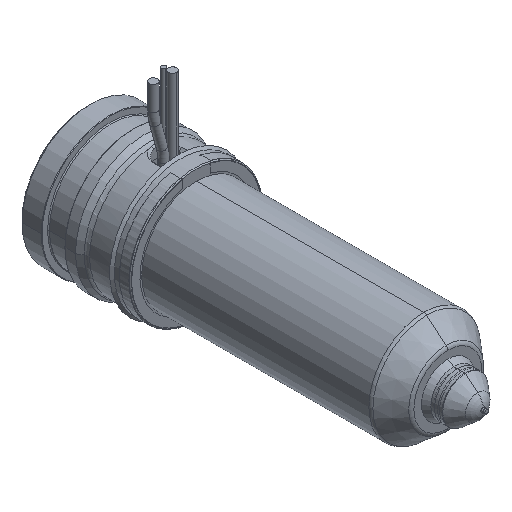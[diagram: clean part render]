
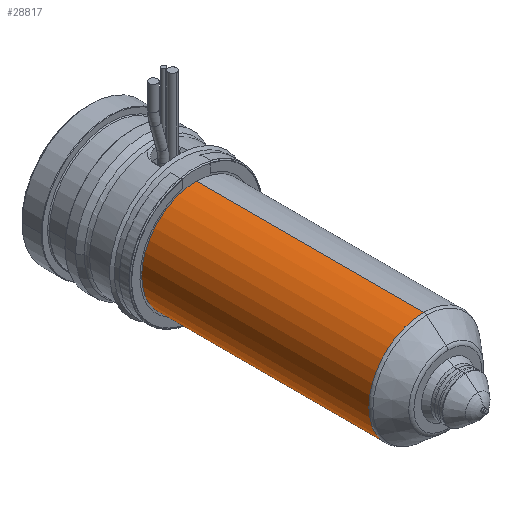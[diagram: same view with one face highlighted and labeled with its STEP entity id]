
A CAD part, isometric view. The second image highlights one B-rep face of the part: STEP entity #28817.
In plain terms, the highlighted cylindrical face has radius 12 mm (diameter 24 mm), a partial arc.
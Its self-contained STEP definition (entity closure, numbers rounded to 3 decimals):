
#28202=CARTESIAN_POINT('',(0.,-73.736,0.));
#28203=DIRECTION('',(0.,-1.,0.));
#28204=DIRECTION('',(0.,0.,1.));
#28205=AXIS2_PLACEMENT_3D('',#28202,#28203,#28204);
#28210=CARTESIAN_POINT('',(0.,-24.,0.));
#28211=DIRECTION('',(0.,1.,0.));
#28212=DIRECTION('',(0.,0.,-1.));
#28213=AXIS2_PLACEMENT_3D('',#28210,#28211,#28212);
#28218=DIRECTION('',(0.,1.,0.));
#28219=VECTOR('',#28218,49.736);
#28220=CARTESIAN_POINT('',(0.,-73.736,12.));
#28221=LINE('',#28220,#28219);
#28233=DIRECTION('',(0.,1.,0.));
#28234=VECTOR('',#28233,49.736);
#28235=CARTESIAN_POINT('',(0.,-73.736,-12.));
#28236=LINE('',#28235,#28234);
#28422=CARTESIAN_POINT('',(0.,-73.736,12.));
#28423=CARTESIAN_POINT('',(0.,-24.,12.));
#28424=VERTEX_POINT('',#28422);
#28425=VERTEX_POINT('',#28423);
#28426=CARTESIAN_POINT('',(0.,-73.736,-12.));
#28427=CARTESIAN_POINT('',(0.,-24.,-12.));
#28428=VERTEX_POINT('',#28426);
#28429=VERTEX_POINT('',#28427);
#28803=CARTESIAN_POINT('',(0.,-16.625,0.));
#28804=DIRECTION('',(0.,-1.,0.));
#28805=DIRECTION('',(0.,0.,1.));
#28806=AXIS2_PLACEMENT_3D('',#28803,#28804,#28805);
#28807=CYLINDRICAL_SURFACE('',#28806,12.);
#28809=ORIENTED_EDGE('',*,*,#28808,.F.);
#28810=ORIENTED_EDGE('',*,*,#28798,.T.);
#28812=ORIENTED_EDGE('',*,*,#28811,.T.);
#28814=ORIENTED_EDGE('',*,*,#28813,.T.);
#28815=EDGE_LOOP('',(#28809,#28810,#28812,#28814));
#28816=FACE_OUTER_BOUND('',#28815,.F.);
#28817=ADVANCED_FACE('',(#28816),#28807,.T.);
#28206=CIRCLE('',#28205,12.);
#28214=CIRCLE('',#28213,12.);
#28798=EDGE_CURVE('',#28424,#28428,#28206,.T.);
#28808=EDGE_CURVE('',#28424,#28425,#28221,.T.);
#28811=EDGE_CURVE('',#28428,#28429,#28236,.T.);
#28813=EDGE_CURVE('',#28429,#28425,#28214,.T.);
